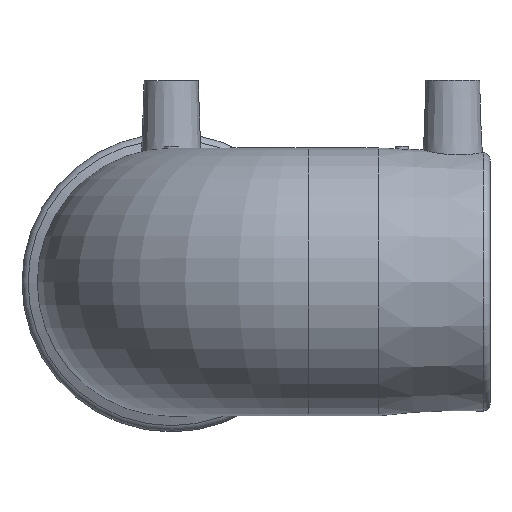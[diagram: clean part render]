
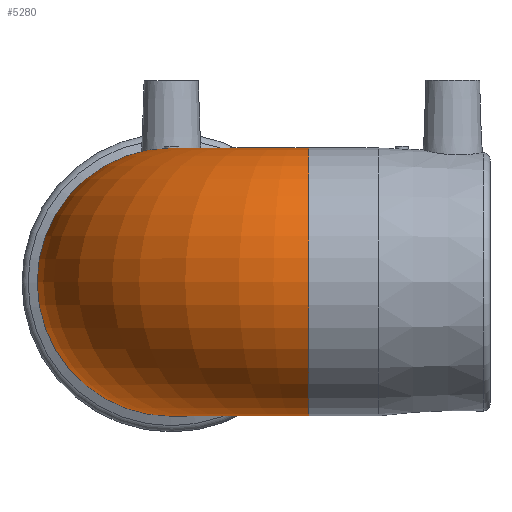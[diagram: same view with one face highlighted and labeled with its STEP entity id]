
A CAD part, top view. The second image highlights one B-rep face of the part: STEP entity #5280.
In plain terms, the highlighted toroidal (fillet/blend) face has major radius 40.5 mm and minor radius 39.5 mm.
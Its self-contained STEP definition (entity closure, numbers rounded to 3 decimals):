
#335=TOROIDAL_SURFACE('',#6748,40.5,39.5);
#512=CIRCLE('',#6737,39.5);
#515=CIRCLE('',#6742,39.5);
#780=ORIENTED_EDGE('',*,*,#2428,.F.);
#781=ORIENTED_EDGE('',*,*,#2431,.T.);
#2428=EDGE_CURVE('',#3259,#3259,#512,.F.);
#2431=EDGE_CURVE('',#3262,#3262,#515,.F.);
#3259=VERTEX_POINT('',#8385);
#3262=VERTEX_POINT('',#8393);
#4331=EDGE_LOOP('',(#780));
#4332=EDGE_LOOP('',(#781));
#4776=FACE_BOUND('',#4331,.T.);
#4777=FACE_BOUND('',#4332,.T.);
#5280=ADVANCED_FACE('',(#4776,#4777),#335,.T.);
#6737=AXIS2_PLACEMENT_3D('',#8384,#7243,#7244);
#6742=AXIS2_PLACEMENT_3D('',#8392,#7253,#7254);
#6748=AXIS2_PLACEMENT_3D('',#8425,#7265,#7266);
#7243=DIRECTION('',(-1.,0.,0.));
#7244=DIRECTION('',(0.,0.,-1.));
#7253=DIRECTION('',(0.,0.,-1.));
#7254=DIRECTION('',(1.,0.,0.));
#7265=DIRECTION('',(0.,1.,0.));
#7266=DIRECTION('',(0.,0.,1.));
#8384=CARTESIAN_POINT('',(40.5,0.,94.));
#8385=CARTESIAN_POINT('',(40.5,0.,54.5));
#8392=CARTESIAN_POINT('',(0.,0.,53.5));
#8393=CARTESIAN_POINT('',(39.5,0.,53.5));
#8425=CARTESIAN_POINT('',(40.5,0.,53.5));
